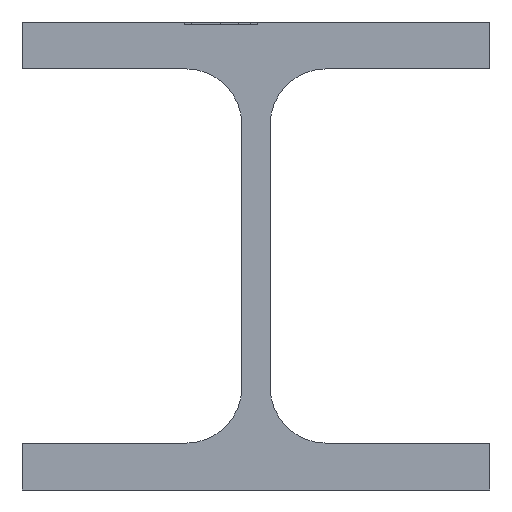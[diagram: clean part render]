
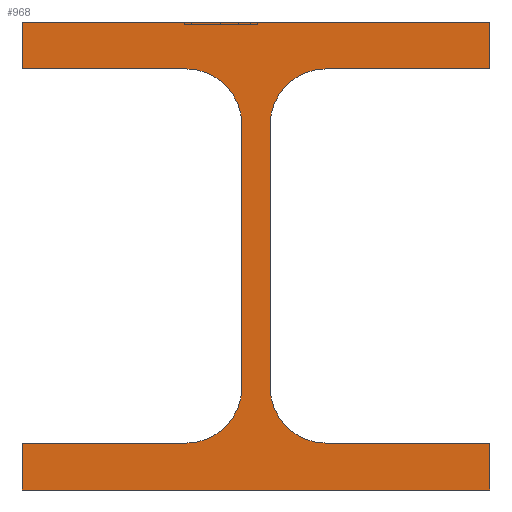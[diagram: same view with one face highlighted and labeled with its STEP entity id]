
A CAD part, left-side view. The second image highlights one B-rep face of the part: STEP entity #968.
In plain terms, the highlighted planar face has unit normal (-1, 0, 0).
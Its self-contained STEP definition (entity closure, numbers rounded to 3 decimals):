
#44 = LINE ( 'NONE', #2225, #4475 ) ;
#114 = LINE ( 'NONE', #1246, #2960 ) ;
#137 = VERTEX_POINT ( 'NONE', #1901 ) ;
#142 = DIRECTION ( 'NONE',  ( 0., 1., 0. ) ) ;
#211 = DIRECTION ( 'NONE',  ( -1., 0., 0. ) ) ;
#212 = VECTOR ( 'NONE', #4051, 1000. ) ;
#236 = CARTESIAN_POINT ( 'NONE',  ( -55., 15., 2380. ) ) ;
#317 = EDGE_CURVE ( 'NONE', #3316, #137, #3611, .T. ) ;
#376 = EDGE_CURVE ( 'NONE', #1490, #1826, #2513, .T. ) ;
#416 = ORIENTED_EDGE ( 'NONE', *, *, #2384, .T. ) ;
#440 = EDGE_CURVE ( 'NONE', #2093, #3915, #1076, .T. ) ;
#470 = VERTEX_POINT ( 'NONE', #1874 ) ;
#549 = ORIENTED_EDGE ( 'NONE', *, *, #4114, .T. ) ;
#562 = VERTEX_POINT ( 'NONE', #845 ) ;
#578 = DIRECTION ( 'NONE',  ( 0., 0., 1. ) ) ;
#579 = VECTOR ( 'NONE', #1485, 1000. ) ;
#616 = DIRECTION ( 'NONE',  ( 0., 0., -1. ) ) ;
#640 = DIRECTION ( 'NONE',  ( 1., 0., 0. ) ) ;
#730 = CARTESIAN_POINT ( 'NONE',  ( -55., 15., 2300. ) ) ;
#754 = ORIENTED_EDGE ( 'NONE', *, *, #2871, .T. ) ;
#805 = LINE ( 'NONE', #1192, #3916 ) ;
#845 = CARTESIAN_POINT ( 'NONE',  ( -55., -50., 2390. ) ) ;
#887 = VERTEX_POINT ( 'NONE', #1316 ) ;
#968 = ADVANCED_FACE ( 'NONE', ( #4506 ), #2364, .T. ) ;
#982 = CARTESIAN_POINT ( 'NONE',  ( -55., 15., 2300. ) ) ;
#1076 = LINE ( 'NONE', #730, #212 ) ;
#1109 = EDGE_CURVE ( 'NONE', #470, #1896, #805, .T. ) ;
#1113 = CARTESIAN_POINT ( 'NONE',  ( -55., -15., 2300. ) ) ;
#1134 = DIRECTION ( 'NONE',  ( 0., -1., 0. ) ) ;
#1143 = CARTESIAN_POINT ( 'NONE',  ( -55., -50., 2300. ) ) ;
#1158 = LINE ( 'NONE', #2602, #2050 ) ;
#1192 = CARTESIAN_POINT ( 'NONE',  ( -55., -15., 2380. ) ) ;
#1246 = CARTESIAN_POINT ( 'NONE',  ( -55., 50., 2380. ) ) ;
#1285 = DIRECTION ( 'NONE',  ( 0., 0., 1. ) ) ;
#1316 = CARTESIAN_POINT ( 'NONE',  ( -55., -3., 2368. ) ) ;
#1364 = VERTEX_POINT ( 'NONE', #3363 ) ;
#1391 = VERTEX_POINT ( 'NONE', #2066 ) ;
#1474 = DIRECTION ( 'NONE',  ( 0., 0., 1. ) ) ;
#1485 = DIRECTION ( 'NONE',  ( 0., 0., -1. ) ) ;
#1488 = LINE ( 'NONE', #4379, #3343 ) ;
#1490 = VERTEX_POINT ( 'NONE', #2109 ) ;
#1516 = CIRCLE ( 'NONE', #2113, 12. ) ;
#1554 = AXIS2_PLACEMENT_3D ( 'NONE', #2489, #2138, #3604 ) ;
#1570 = EDGE_CURVE ( 'NONE', #1391, #1364, #44, .T. ) ;
#1578 = EDGE_CURVE ( 'NONE', #1364, #3316, #4388, .T. ) ;
#1593 = CARTESIAN_POINT ( 'NONE',  ( -55., -50., 2390. ) ) ;
#1687 = CARTESIAN_POINT ( 'NONE',  ( -55., 50., 2380. ) ) ;
#1737 = EDGE_CURVE ( 'NONE', #3029, #4527, #1158, .T. ) ;
#1748 = CARTESIAN_POINT ( 'NONE',  ( -55., 50., 2300. ) ) ;
#1774 = EDGE_CURVE ( 'NONE', #3915, #1900, #2423, .T. ) ;
#1826 = VERTEX_POINT ( 'NONE', #1687 ) ;
#1874 = CARTESIAN_POINT ( 'NONE',  ( -55., -15., 2380. ) ) ;
#1891 = DIRECTION ( 'NONE',  ( 0., -1., 0. ) ) ;
#1894 = ORIENTED_EDGE ( 'NONE', *, *, #376, .T. ) ;
#1896 = VERTEX_POINT ( 'NONE', #2185 ) ;
#1900 = VERTEX_POINT ( 'NONE', #2563 ) ;
#1901 = CARTESIAN_POINT ( 'NONE',  ( -55., -3., 2312. ) ) ;
#1916 = ORIENTED_EDGE ( 'NONE', *, *, #2775, .T. ) ;
#1948 = VERTEX_POINT ( 'NONE', #236 ) ;
#2011 = CARTESIAN_POINT ( 'NONE',  ( -55., 15., 2312. ) ) ;
#2050 = VECTOR ( 'NONE', #3010, 1000. ) ;
#2066 = CARTESIAN_POINT ( 'NONE',  ( -55., -50., 2290. ) ) ;
#2093 = VERTEX_POINT ( 'NONE', #982 ) ;
#2109 = CARTESIAN_POINT ( 'NONE',  ( -55., 50., 2390. ) ) ;
#2113 = AXIS2_PLACEMENT_3D ( 'NONE', #2011, #4234, #3477 ) ;
#2138 = DIRECTION ( 'NONE',  ( 1., 0., 0. ) ) ;
#2185 = CARTESIAN_POINT ( 'NONE',  ( -55., -50., 2380. ) ) ;
#2225 = CARTESIAN_POINT ( 'NONE',  ( -55., -50., 2290. ) ) ;
#2304 = AXIS2_PLACEMENT_3D ( 'NONE', #2389, #211, #578 ) ;
#2364 = PLANE ( 'NONE',  #2304 ) ;
#2384 = EDGE_CURVE ( 'NONE', #137, #887, #3614, .T. ) ;
#2389 = CARTESIAN_POINT ( 'NONE',  ( -55., 1025., 2295. ) ) ;
#2419 = VECTOR ( 'NONE', #2554, 1000. ) ;
#2423 = LINE ( 'NONE', #3487, #3044 ) ;
#2425 = LINE ( 'NONE', #3152, #3649 ) ;
#2489 = CARTESIAN_POINT ( 'NONE',  ( -55., -15., 2312. ) ) ;
#2513 = LINE ( 'NONE', #3978, #579 ) ;
#2521 = EDGE_CURVE ( 'NONE', #1896, #562, #2425, .T. ) ;
#2554 = DIRECTION ( 'NONE',  ( 0., 1., 0. ) ) ;
#2561 = ORIENTED_EDGE ( 'NONE', *, *, #3871, .T. ) ;
#2563 = CARTESIAN_POINT ( 'NONE',  ( -55., 50., 2290. ) ) ;
#2574 = DIRECTION ( 'NONE',  ( 0., 0., 1. ) ) ;
#2600 = CARTESIAN_POINT ( 'NONE',  ( -55., 3., 2312. ) ) ;
#2602 = CARTESIAN_POINT ( 'NONE',  ( -55., 3., 2368. ) ) ;
#2733 = EDGE_CURVE ( 'NONE', #1900, #1391, #1488, .T. ) ;
#2766 = CARTESIAN_POINT ( 'NONE',  ( -55., 15., 2368. ) ) ;
#2775 = EDGE_CURVE ( 'NONE', #1826, #1948, #114, .T. ) ;
#2845 = ORIENTED_EDGE ( 'NONE', *, *, #1578, .T. ) ;
#2853 = CARTESIAN_POINT ( 'NONE',  ( -55., -3., 2312. ) ) ;
#2871 = EDGE_CURVE ( 'NONE', #4527, #2093, #1516, .T. ) ;
#2937 = ORIENTED_EDGE ( 'NONE', *, *, #1774, .T. ) ;
#2947 = ORIENTED_EDGE ( 'NONE', *, *, #317, .T. ) ;
#2960 = VECTOR ( 'NONE', #1891, 1000. ) ;
#2965 = CIRCLE ( 'NONE', #3574, 12. ) ;
#3010 = DIRECTION ( 'NONE',  ( 0., 0., -1. ) ) ;
#3029 = VERTEX_POINT ( 'NONE', #3867 ) ;
#3038 = CIRCLE ( 'NONE', #3192, 12. ) ;
#3044 = VECTOR ( 'NONE', #616, 1000. ) ;
#3098 = ORIENTED_EDGE ( 'NONE', *, *, #2733, .T. ) ;
#3152 = CARTESIAN_POINT ( 'NONE',  ( -55., -50., 2380. ) ) ;
#3192 = AXIS2_PLACEMENT_3D ( 'NONE', #2766, #4292, #4222 ) ;
#3316 = VERTEX_POINT ( 'NONE', #1113 ) ;
#3343 = VECTOR ( 'NONE', #1134, 1000. ) ;
#3363 = CARTESIAN_POINT ( 'NONE',  ( -55., -50., 2300. ) ) ;
#3477 = DIRECTION ( 'NONE',  ( 0., 0., 1. ) ) ;
#3487 = CARTESIAN_POINT ( 'NONE',  ( -55., 50., 2300. ) ) ;
#3496 = VECTOR ( 'NONE', #142, 1000. ) ;
#3533 = ORIENTED_EDGE ( 'NONE', *, *, #1109, .T. ) ;
#3548 = ORIENTED_EDGE ( 'NONE', *, *, #1737, .T. ) ;
#3574 = AXIS2_PLACEMENT_3D ( 'NONE', #3887, #640, #4547 ) ;
#3604 = DIRECTION ( 'NONE',  ( 0., 0., 1. ) ) ;
#3611 = CIRCLE ( 'NONE', #1554, 12. ) ;
#3614 = LINE ( 'NONE', #2853, #4558 ) ;
#3615 = EDGE_CURVE ( 'NONE', #1948, #3029, #3038, .T. ) ;
#3649 = VECTOR ( 'NONE', #1285, 1000. ) ;
#3745 = ORIENTED_EDGE ( 'NONE', *, *, #1570, .T. ) ;
#3867 = CARTESIAN_POINT ( 'NONE',  ( -55., 3., 2368. ) ) ;
#3871 = EDGE_CURVE ( 'NONE', #562, #1490, #4466, .T. ) ;
#3887 = CARTESIAN_POINT ( 'NONE',  ( -55., -15., 2368. ) ) ;
#3915 = VERTEX_POINT ( 'NONE', #1748 ) ;
#3916 = VECTOR ( 'NONE', #4448, 1000. ) ;
#3978 = CARTESIAN_POINT ( 'NONE',  ( -55., 50., 2390. ) ) ;
#4026 = EDGE_LOOP ( 'NONE', ( #3533, #4538, #2561, #1894, #1916, #4060, #3548, #754, #4117, #2937, #3098, #3745, #2845, #2947, #416, #549 ) ) ;
#4051 = DIRECTION ( 'NONE',  ( 0., 1., 0. ) ) ;
#4060 = ORIENTED_EDGE ( 'NONE', *, *, #3615, .T. ) ;
#4114 = EDGE_CURVE ( 'NONE', #887, #470, #2965, .T. ) ;
#4117 = ORIENTED_EDGE ( 'NONE', *, *, #440, .T. ) ;
#4222 = DIRECTION ( 'NONE',  ( 0., 0., 1. ) ) ;
#4234 = DIRECTION ( 'NONE',  ( 1., 0., 0. ) ) ;
#4292 = DIRECTION ( 'NONE',  ( 1., 0., 0. ) ) ;
#4379 = CARTESIAN_POINT ( 'NONE',  ( -55., 50., 2290. ) ) ;
#4388 = LINE ( 'NONE', #1143, #2419 ) ;
#4448 = DIRECTION ( 'NONE',  ( 0., -1., 0. ) ) ;
#4466 = LINE ( 'NONE', #1593, #3496 ) ;
#4475 = VECTOR ( 'NONE', #1474, 1000. ) ;
#4506 = FACE_OUTER_BOUND ( 'NONE', #4026, .T. ) ;
#4527 = VERTEX_POINT ( 'NONE', #2600 ) ;
#4538 = ORIENTED_EDGE ( 'NONE', *, *, #2521, .T. ) ;
#4547 = DIRECTION ( 'NONE',  ( 0., 0., 1. ) ) ;
#4558 = VECTOR ( 'NONE', #2574, 1000. ) ;
